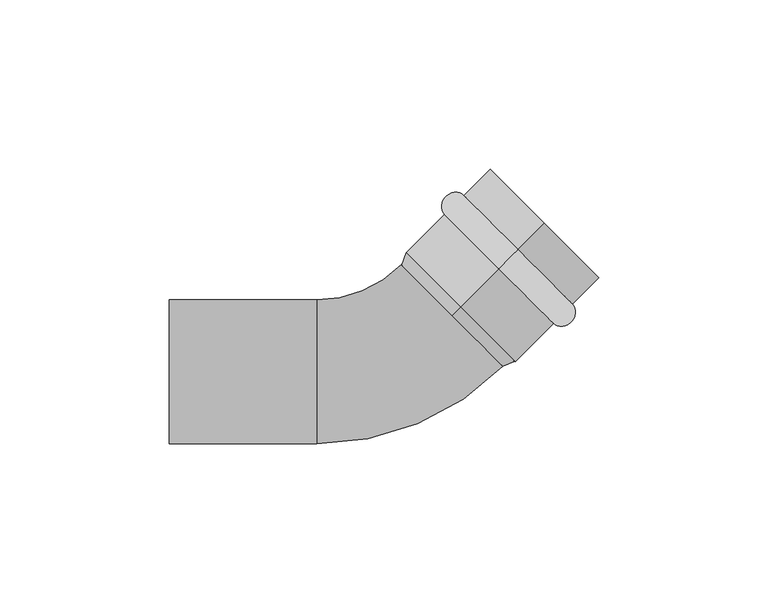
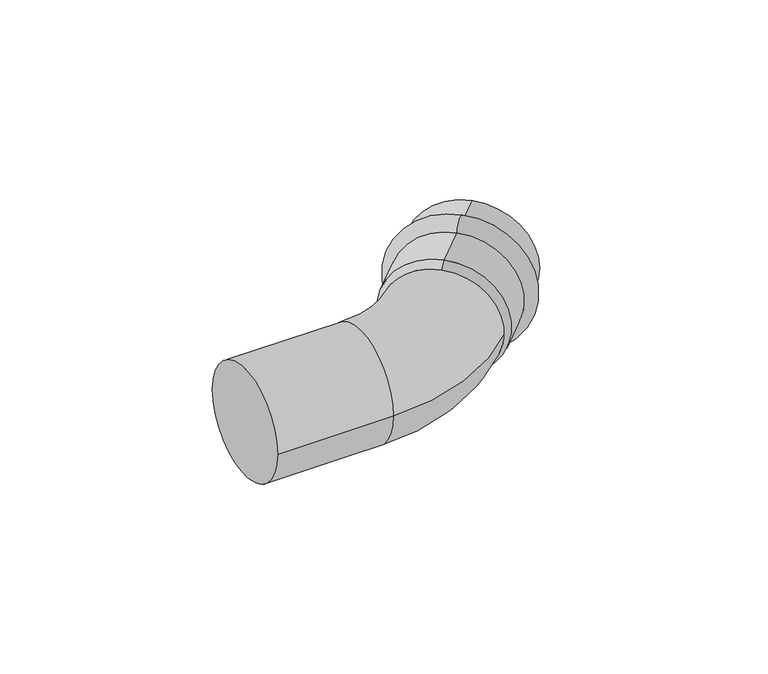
"""IFC4 building model written with IfcOpenShell, lengths in millimetres: pipe fitting geometry, РЕХАУ_Пресс Отвод-вставка : 42 x 45°."""

from ifc_helpers import new_model, si_unit, point, frame, origin, place, context, project, spatial, polyline, circle_curve, ellipse_curve, trimmed, source, transform, mapped, element, save
from ifc_brep_helpers import plane_surface, cylinder_surface, revolved_surface, advanced_brep


def pipe_fitting_e990965c(model_context):
    return source(origin(), model_context, "Body", "AdvancedBrep", [
        advanced_brep(
        [(103.0624458, 36.0624458, 22.75), (103.0624458, 36.0624458, -22.75), (97.4055916, 30.4055916, -22.75), (97.4055916, 30.4055916, 22.75)],
        [
            (0, 1, circle_curve(frame((103.0624458, 36.0624458, 0.0), z_axis=(0.7071067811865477, 0.7071067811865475, 0.0), x_axis=(0.0, 0.0, -1.0)), 22.75)),
            (1, 2),
            (2, 3, circle_curve(frame((97.4055916, 30.4055916, 0.0), z_axis=(-0.7071067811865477, -0.7071067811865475, 0.0), x_axis=(0.0, 0.0, -1.0)), 22.75)),
            (3, 0),
            (1, 0, circle_curve(frame((103.0624458, 36.0624458, 0.0), z_axis=(0.7071067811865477, 0.7071067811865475, 0.0), x_axis=(0.0, 0.0, -1.0)), 22.75)),
            (3, 2, circle_curve(frame((97.4055916, 30.4055916, 0.0), z_axis=(-0.7071067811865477, -0.7071067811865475, 0.0), x_axis=(0.0, 0.0, -1.0)), 22.75)),
            (2, 1, ellipse_curve(frame((100.2340187, 33.2340187, -22.75), z_axis=(0.7071067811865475, -0.7071067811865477, 0.0), x_axis=(0.7071067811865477, 0.7071067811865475, 0.0)), 4.0, 3.6)),
            (0, 3, ellipse_curve(frame((100.2340187, 33.2340187, 22.75), z_axis=(0.7071067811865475, -0.7071067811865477, 0.0), x_axis=(0.7071067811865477, 0.7071067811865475, 0.0)), 4.0, 3.6)),
        ],
        [
            revolved_surface(polyline([(97.40559160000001, 30.405591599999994, -22.75), (103.0624458, 36.062445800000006, -22.75)]), (83.263456, 16.263456, 0.0), (-0.7071067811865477, -0.7071067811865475, 0.0)),
            revolved_surface(trimmed(ellipse_curve(frame((100.2340187, 33.2340187, -22.75), z_axis=(-0.7071067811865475, 0.7071067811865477, 0.0), x_axis=(0.7071067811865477, 0.7071067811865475, 0.0)), 4.0, 3.6), [point((103.0624458, 36.0624458, -22.75))], [point((97.4055916, 30.4055916, -22.75))], True, "CARTESIAN"), (83.263456, 16.263456, 0.0), (-0.7071067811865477, -0.7071067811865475, 0.0)),
        ],
        [
            (0, [[1, 2, 3, 4]]),
            (0, [[5, -4, 6, -2]]),
            (1, [[-3, 7, -1, 8]]),
            (1, [[-6, -8, -5, -7]]),
        ],
    ),
        advanced_brep(
        [(83.5931243, 16.5931243, 21.25), (83.5931243, 16.5931243, -21.25), (86.0918831, 19.0918831, -22.75), (86.0918831, 19.0918831, 22.75), (110.8406204, 43.8406204, 21.25), (110.8406204, 43.8406204, -21.25), (110.8406204, 43.8406204, 22.75), (110.8406204, 43.8406204, -22.75)],
        [
            (0, 1, circle_curve(frame((83.5931243, 16.5931243, 0.0), z_axis=(0.7071067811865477, 0.7071067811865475, 0.0), x_axis=(0.0, 0.0, -1.0)), 21.25)),
            (1, 2),
            (2, 3, circle_curve(frame((86.0918831, 19.0918831, 0.0), z_axis=(-0.7071067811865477, -0.7071067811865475, 0.0), x_axis=(0.0, 0.0, -1.0)), 22.75)),
            (3, 0),
            (1, 0, circle_curve(frame((83.5931243, 16.5931243, 0.0), z_axis=(0.7071067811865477, 0.7071067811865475, 0.0), x_axis=(0.0, 0.0, -1.0)), 21.25)),
            (3, 2, circle_curve(frame((86.0918831, 19.0918831, 0.0), z_axis=(-0.7071067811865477, -0.7071067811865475, 0.0), x_axis=(0.0, 0.0, -1.0)), 22.75)),
            (4, 5, circle_curve(frame((110.8406204, 43.8406204, 0.0), z_axis=(0.7071067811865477, 0.7071067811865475, 0.0), x_axis=(0.0, 0.0, -1.0)), 21.25)),
            (5, 1),
            (0, 4),
            (5, 4, circle_curve(frame((110.8406204, 43.8406204, 0.0), z_axis=(0.7071067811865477, 0.7071067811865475, 0.0), x_axis=(0.0, 0.0, -1.0)), 21.25)),
            (6, 7, circle_curve(frame((110.8406204, 43.8406204, 0.0), z_axis=(0.7071067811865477, 0.7071067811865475, 0.0), x_axis=(0.0, 0.0, -1.0)), 22.75)),
            (7, 5),
            (4, 6),
            (7, 6, circle_curve(frame((110.8406204, 43.8406204, 0.0), z_axis=(0.7071067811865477, 0.7071067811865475, 0.0), x_axis=(0.0, 0.0, -1.0)), 22.75)),
            (2, 7),
            (6, 3),
        ],
        [
            revolved_surface(polyline([(86.0918831, 19.0918831, -22.75), (83.5931243, 16.5931243, -21.25)]), (83.263456, 16.263456, 0.0), (-0.7071067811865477, -0.7071067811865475, 0.0)),
            revolved_surface(polyline([(83.5931243, 16.5931243, -21.25), (110.8406204, 43.840620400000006, -21.25)]), (83.263456, 16.263456, 0.0), (-0.7071067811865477, -0.7071067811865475, 0.0)),
            plane_surface(frame((110.8406204, 43.8406204, 0.0), z_axis=(0.7071067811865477, 0.7071067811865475, 0.0), x_axis=(0.0, 0.0, -1.0))),
            cylinder_surface(frame((83.263456, 16.263456, 0.0), z_axis=(-0.7071067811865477, -0.7071067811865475, 0.0), x_axis=(0.0, 0.0, -1.0)), 22.75),
        ],
        [
            (0, [[1, 2, 3, 4]]),
            (0, [[5, -4, 6, -2]]),
            (1, [[7, 8, -1, 9]]),
            (1, [[10, -9, -5, -8]]),
            (2, [[11, 12, -7, 13]]),
            (2, [[14, -13, -10, -12]]),
            (3, [[-3, 15, -11, 16]]),
            (3, [[-6, -16, -14, -15]]),
        ],
    ),
        advanced_brep(
        [(0.0, -21.25, 0.0), (0.0, 21.25, 0.0), (43.5337785, -21.25, 0.0), (43.5337785, 21.25, 0.0), (68.5671052, 31.6191434, 0.0), (98.6191434, 1.5671052, 0.0), (101.1179022, 4.065864, 0.0), (71.065864, 34.1179022, 0.0)],
        [
            (0, 1, circle_curve(frame((0.0, 0.0, 0.0), z_axis=(-1.0, 0.0, 0.0), x_axis=(0.0, 1.0, 0.0)), 21.25)),
            (1, 0, circle_curve(frame((0.0, 0.0, 0.0), z_axis=(-1.0, 0.0, 0.0), x_axis=(0.0, 1.0, 0.0)), 21.25)),
            (0, 2),
            (2, 3, circle_curve(frame((43.5337785, 0.0, 0.0), z_axis=(-1.0, 0.0, 0.0), x_axis=(0.0, 1.0, 0.0)), 21.25)),
            (3, 1),
            (3, 2, circle_curve(frame((43.5337785, 0.0, 0.0), z_axis=(-1.0, 0.0, 0.0), x_axis=(0.0, 1.0, 0.0)), 21.25)),
            (4, 3, circle_curve(frame((43.5337785, 56.6524701, 0.0), z_axis=(0.0, 0.0, -1.0), x_axis=(0.0, -1.0, 0.0)), 35.4024701)),
            (2, 5, circle_curve(frame((43.5337785, 56.6524701, 0.0), z_axis=(0.0, 0.0, 1.0), x_axis=(0.0, -1.0, 0.0)), 77.9024701)),
            (5, 4, circle_curve(frame((83.5931243, 16.5931243, 0.0), z_axis=(-0.7071067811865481, -0.7071067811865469, 0.0), x_axis=(-0.7071067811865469, 0.7071067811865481, 0.0)), 21.25)),
            (4, 5, circle_curve(frame((83.5931243, 16.5931243, 0.0), z_axis=(-0.7071067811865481, -0.7071067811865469, 0.0), x_axis=(-0.7071067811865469, 0.7071067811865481, 0.0)), 21.25)),
            (6, 7, circle_curve(frame((86.0918831, 19.0918831, 0.0), z_axis=(0.7071067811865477, 0.7071067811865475, 0.0), x_axis=(-0.7071067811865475, 0.7071067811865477, 0.0)), 21.25)),
            (7, 6, circle_curve(frame((86.0918831, 19.0918831, 0.0), z_axis=(0.7071067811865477, 0.7071067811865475, 0.0), x_axis=(-0.7071067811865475, 0.7071067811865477, 0.0)), 21.25)),
            (5, 6),
            (7, 4),
        ],
        [
            plane_surface(frame((0.0, 0.0, 0.0), z_axis=(-1.0, 0.0, 0.0), x_axis=(0.0, 0.0, 1.0))),
            cylinder_surface(frame((0.0, 0.0, 0.0), z_axis=(-1.0, 0.0, 0.0), x_axis=(0.0, 1.0, 0.0)), 21.25),
            revolved_surface(trimmed(ellipse_curve(frame((43.5337785, 0.0, 0.0), z_axis=(-1.0, 0.0, 0.0), x_axis=(0.0, 1.0, 0.0)), 21.25, 21.25), [point((43.5337785, -21.25, 0.0))], [point((43.5337785, 21.25, 0.0))], True, "CARTESIAN"), (43.5337785, 56.6524701, 0.0), (0.0, 0.0, 1.0)),
            revolved_surface(trimmed(ellipse_curve(frame((43.5337785, 0.0, 0.0), z_axis=(-1.0, 0.0, 0.0), x_axis=(0.0, 1.0, 0.0)), 21.25, 21.25), [point((43.5337785, 21.25, 0.0))], [point((43.5337785, -21.25, 0.0))], True, "CARTESIAN"), (43.5337785, 56.6524701, 0.0), (0.0, 0.0, 1.0)),
            plane_surface(frame((86.0918831, 19.0918831, 0.0), z_axis=(0.7071067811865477, 0.7071067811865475, 0.0), x_axis=(0.0, 0.0, 1.0))),
            cylinder_surface(frame((83.5931243, 16.5931243, 0.0), z_axis=(-0.7071067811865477, -0.7071067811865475, 0.0), x_axis=(-0.7071067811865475, 0.7071067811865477, 0.0)), 21.25),
        ],
        [
            (0, [[1, 2]]),
            (1, [[-1, 3, 4, 5]]),
            (1, [[-2, -5, 6, -3]]),
            (2, [[7, -4, 8, 9]]),
            (3, [[-8, -6, -7, 10]]),
            (4, [[11, 12]]),
            (5, [[-9, 13, -12, 14]]),
            (5, [[-10, -14, -11, -13]]),
        ],
    ),
    ])


if __name__ == "__main__":
    model = new_model("IFC4")
    model_context = context("Model", 3, world=origin())
    ifc_project = project(units=[si_unit("LENGTHUNIT", "METRE", prefix="MILLI")], contexts=[model_context])
    site = spatial("IfcSite", under=ifc_project)
    building = spatial("IfcBuilding", under=site)
    placement = place(None, origin())
    pipe_fitting_shape = pipe_fitting_e990965c(model_context)
    element("IfcPipeFitting", 1, ObjectType="РЕХАУ_Пресс Отвод-вставка : 42 x 45°", at=placement, inside=building, context=model_context, shape_type="MappedRepresentation", body=[
        mapped(pipe_fitting_shape, transform((0.0, 0.0, 0.0), x_axis=(1.0, 0.0, 0.0), y_axis=(0.0, 1.0, 0.0), z_axis=(0.0, 0.0, 1.0))),
    ])
    save(model, "model.ifc")
